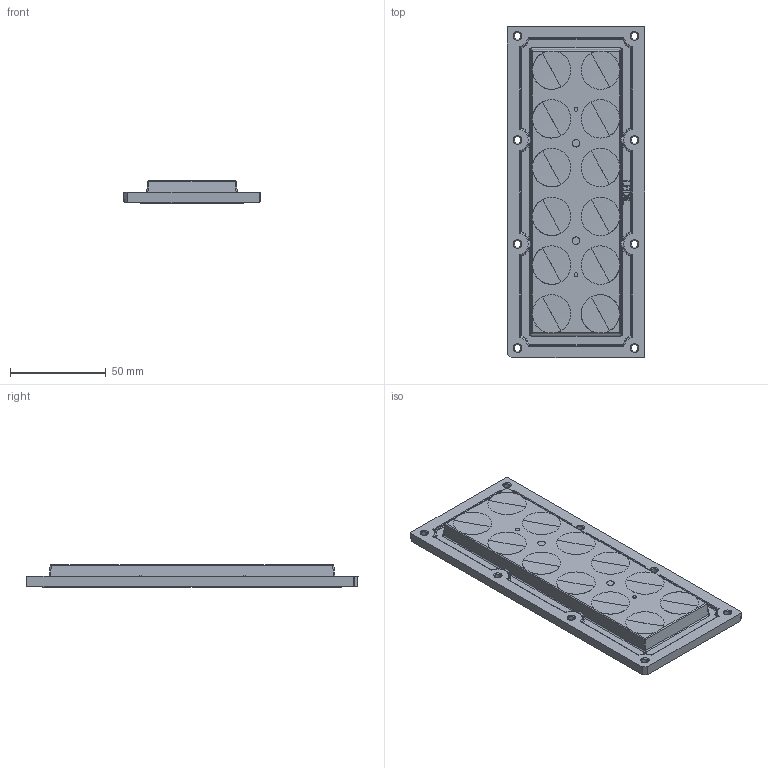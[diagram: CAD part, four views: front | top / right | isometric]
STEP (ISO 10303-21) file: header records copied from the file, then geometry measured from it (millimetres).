
FILE_DESCRIPTION(('CATIA V5 STEP Exchange'),'2;1');
FILE_NAME('C:\Users\matti.vuola.LEDIL\Catia-files\2x6\CS14891_HB-IP-2X6-M_with_reference_PCB_mechanicalmodel_20190416.stp','2019-05-13T12:25:22+00:00',('none'),('none'),'CATIA Version 5-6 Release 2018 SP4','CATIA V5 STEP AP203','none');
FILE_SCHEMA(('CONFIG_CONTROL_DESIGN'));
Products named in the file (1): C14051
Bounding box: 71.4 x 173 x 11.69 mm (x, y, z)
Volume: 61747.6 mm3; surface area: 59417.6 mm2
Topology: 3 solids, 3 shells, 2040 faces, 5588 edges, 3351 vertices
Faces by surface type: bspline 795, cylinder 428, plane 297, torus 208, cone 177, sphere 87, revolution 48
Entity records: 108796 total; most frequent: CARTESIAN_POINT 67251, ORIENTED_EDGE 10630, EDGE_CURVE 5315, DIRECTION 4654, VERTEX_POINT 3351, AXIS2_PLACEMENT_3D 2622, B_SPLINE_CURVE_WITH_KNOTS 2571, EDGE_LOOP 2322
